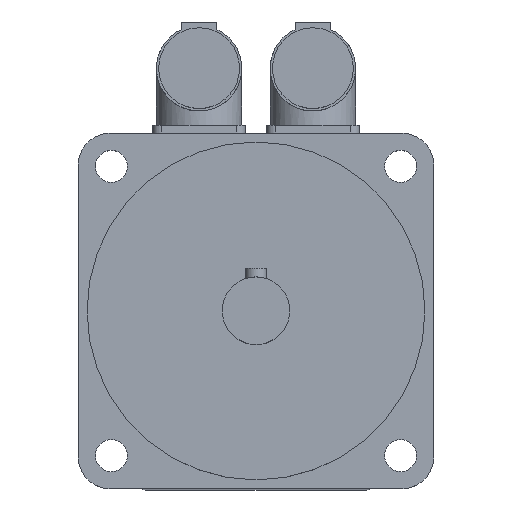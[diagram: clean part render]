
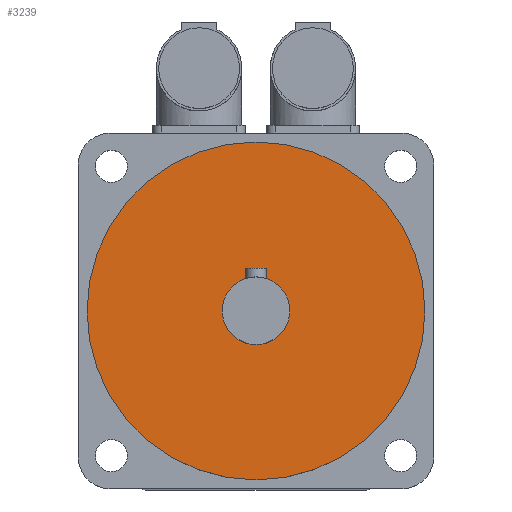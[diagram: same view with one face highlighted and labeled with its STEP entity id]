
A CAD part, top view. The second image highlights one B-rep face of the part: STEP entity #3239.
In plain terms, the highlighted planar face has unit normal (0, 0, 1).
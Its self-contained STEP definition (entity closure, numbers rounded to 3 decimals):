
#36=FACE_BOUND('',#567,.T.);
#71=PLANE('',#3478);
#182=CIRCLE('',#3473,9.5);
#183=CIRCLE('',#3476,47.5);
#368=FACE_OUTER_BOUND('',#566,.T.);
#566=EDGE_LOOP('',(#2309));
#567=EDGE_LOOP('',(#2310));
#1393=VERTEX_POINT('',#5230);
#1394=VERTEX_POINT('',#5234);
#1743=EDGE_CURVE('',#1393,#1393,#182,.T.);
#1744=EDGE_CURVE('',#1394,#1394,#183,.T.);
#2309=ORIENTED_EDGE('',*,*,#1744,.T.);
#2310=ORIENTED_EDGE('',*,*,#1743,.T.);
#3239=ADVANCED_FACE('',(#368,#36),#71,.F.);
#3473=AXIS2_PLACEMENT_3D('',#5231,#3962,#3963);
#3476=AXIS2_PLACEMENT_3D('',#5235,#3968,#3969);
#3478=AXIS2_PLACEMENT_3D('',#5238,#3972,#3973);
#3962=DIRECTION('center_axis',(0.,0.,-1.));
#3963=DIRECTION('ref_axis',(-1.,0.,0.));
#3968=DIRECTION('center_axis',(0.,0.,
1.));
#3969=DIRECTION('ref_axis',(-1.,0.,0.));
#3972=DIRECTION('center_axis',(0.,0.,-1.));
#3973=DIRECTION('ref_axis',(-1.,0.,0.));
#5230=CARTESIAN_POINT('',(9.5,0.,174.));
#5231=CARTESIAN_POINT('Origin',(0.,0.,
174.));
#5234=CARTESIAN_POINT('',(47.5,0.,174.));
#5235=CARTESIAN_POINT('Origin',(0.,0.,
174.));
#5238=CARTESIAN_POINT('Origin',(0.,0.,
174.));
